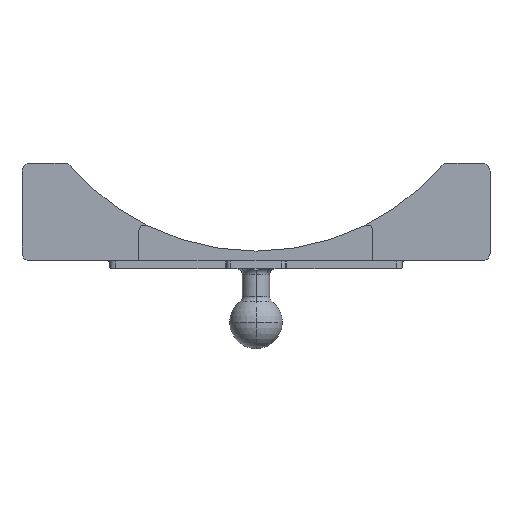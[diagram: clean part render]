
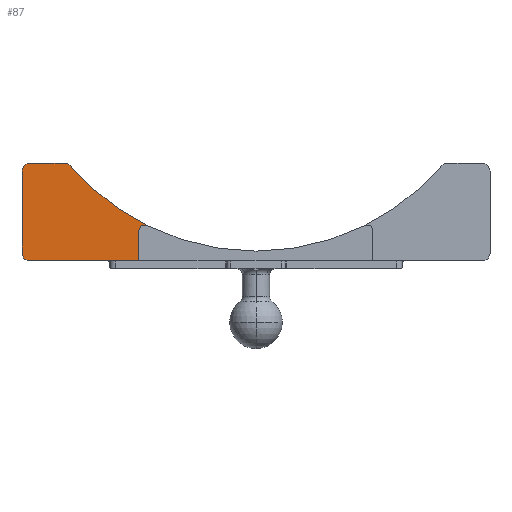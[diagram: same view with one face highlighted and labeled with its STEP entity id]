
A CAD part, top view. The second image highlights one B-rep face of the part: STEP entity #87.
In plain terms, the highlighted planar face has unit normal (0, 0, 1).
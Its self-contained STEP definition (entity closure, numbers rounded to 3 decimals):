
#87=ADVANCED_FACE('',(#167),#761,.T.);
#167=FACE_OUTER_BOUND('',#247,.F.);
#247=EDGE_LOOP('',(#481,#482,#483,#484,#485,#486,#487,#488,#489,#490,#491,
#492));
#481=ORIENTED_EDGE('',*,*,#1269,.T.);
#482=ORIENTED_EDGE('',*,*,#1119,.F.);
#483=ORIENTED_EDGE('',*,*,#1241,.T.);
#484=ORIENTED_EDGE('',*,*,#1211,.T.);
#485=ORIENTED_EDGE('',*,*,#1263,.T.);
#486=ORIENTED_EDGE('',*,*,#1246,.T.);
#487=ORIENTED_EDGE('',*,*,#1137,.F.);
#488=ORIENTED_EDGE('',*,*,#1245,.T.);
#489=ORIENTED_EDGE('',*,*,#1133,.F.);
#490=ORIENTED_EDGE('',*,*,#1248,.T.);
#491=ORIENTED_EDGE('',*,*,#1127,.F.);
#492=ORIENTED_EDGE('',*,*,#1140,.T.);
#761=PLANE('',#1610);
#782=LINE('',#2320,#897);
#839=LINE('',#2452,#954);
#869=LINE('',#2482,#984);
#873=LINE('',#2486,#988);
#874=LINE('',#2487,#989);
#876=LINE('',#2489,#991);
#897=VECTOR('',#1705,7.696);
#954=VECTOR('',#1816,0.5);
#984=VECTOR('',#1846,7.5);
#988=VECTOR('',#1850,21.);
#989=VECTOR('',#1851,20.);
#991=VECTOR('',#1853,9.048);
#1031=CIRCLE('',#1518,2.);
#1037=CIRCLE('',#1524,2.);
#1041=CIRCLE('',#1528,2.);
#1044=CIRCLE('',#1531,62.5);
#1058=CIRCLE('',#1545,0.5);
#1064=CIRCLE('',#1551,1.5);
#1119=EDGE_CURVE('',#1429,#1430,#782,.T.);
#1127=EDGE_CURVE('',#1418,#1417,#1031,.T.);
#1133=EDGE_CURVE('',#1406,#1405,#1037,.T.);
#1137=EDGE_CURVE('',#1398,#1397,#1041,.T.);
#1140=EDGE_CURVE('',#1418,#1393,#1044,.T.);
#1211=EDGE_CURVE('',#1352,#1354,#839,.T.);
#1241=EDGE_CURVE('',#1429,#1352,#869,.T.);
#1245=EDGE_CURVE('',#1398,#1405,#873,.T.);
#1246=EDGE_CURVE('',#1348,#1397,#874,.T.);
#1248=EDGE_CURVE('',#1406,#1417,#876,.T.);
#1263=EDGE_CURVE('',#1354,#1348,#1058,.T.);
#1269=EDGE_CURVE('',#1393,#1430,#1064,.T.);
#1348=VERTEX_POINT('',#2141);
#1352=VERTEX_POINT('',#2145);
#1354=VERTEX_POINT('',#2147);
#1393=VERTEX_POINT('',#2186);
#1397=VERTEX_POINT('',#2190);
#1398=VERTEX_POINT('',#2191);
#1405=VERTEX_POINT('',#2198);
#1406=VERTEX_POINT('',#2199);
#1417=VERTEX_POINT('',#2210);
#1418=VERTEX_POINT('',#2211);
#1429=VERTEX_POINT('',#2222);
#1430=VERTEX_POINT('',#2223);
#1518=AXIS2_PLACEMENT_3D('',#2328,#1716,#1717);
#1524=AXIS2_PLACEMENT_3D('',#2334,#1728,#1729);
#1528=AXIS2_PLACEMENT_3D('',#2338,#1736,#1737);
#1531=AXIS2_PLACEMENT_3D('',#2341,#1742,#1743);
#1545=AXIS2_PLACEMENT_3D('',#2504,#1871,#1872);
#1551=AXIS2_PLACEMENT_3D('',#2510,#1883,#1884);
#1610=AXIS2_PLACEMENT_3D('',#2605,#2009,#2010);
#1705=DIRECTION('',(0.,1.,0.));
#1716=DIRECTION('',(0.,0.,1.));
#1717=DIRECTION('',(0.759,0.651,0.));
#1728=DIRECTION('',(0.,0.,1.));
#1729=DIRECTION('',(0.,1.,0.));
#1736=DIRECTION('',(0.,0.,1.));
#1737=DIRECTION('',(-1.,0.,0.));
#1742=DIRECTION('',(0.,0.,1.));
#1743=DIRECTION('',(-0.759,-0.651,0.));
#1816=DIRECTION('',(0.,-1.,0.));
#1846=DIRECTION('',(-1.,0.,0.));
#1850=DIRECTION('',(0.,1.,0.));
#1851=DIRECTION('',(-1.,0.,0.));
#1853=DIRECTION('',(1.,0.,0.));
#1871=DIRECTION('',(0.,0.,1.));
#1872=DIRECTION('',(1.,0.,0.));
#1883=DIRECTION('',(0.,0.,1.));
#1884=DIRECTION('',(0.445,0.895,0.));
#2009=DIRECTION('',(0.,0.,1.));
#2010=DIRECTION('',(1.,0.,0.));
#2141=CARTESIAN_POINT('',(-38.,-17.5,2.375));
#2145=CARTESIAN_POINT('',(-37.5,-17.5,2.375));
#2147=CARTESIAN_POINT('',(-37.5,-18.,2.375));
#2186=CARTESIAN_POINT('',(-27.832,-8.461,2.375));
#2190=CARTESIAN_POINT('',(-58.,-17.5,2.375));
#2191=CARTESIAN_POINT('',(-60.,-15.5,2.375));
#2198=CARTESIAN_POINT('',(-60.,5.5,2.375));
#2199=CARTESIAN_POINT('',(-58.,7.5,2.375));
#2210=CARTESIAN_POINT('',(-48.952,7.5,2.375));
#2211=CARTESIAN_POINT('',(-47.434,6.802,2.375));
#2222=CARTESIAN_POINT('',(-30.,-17.5,2.375));
#2223=CARTESIAN_POINT('',(-30.,-9.804,2.375));
#2320=CARTESIAN_POINT('',(-30.,-17.5,2.375));
#2328=CARTESIAN_POINT('',(-48.952,5.5,2.375));
#2334=CARTESIAN_POINT('',(-58.,5.5,2.375));
#2338=CARTESIAN_POINT('',(-58.,-15.5,2.375));
#2341=CARTESIAN_POINT('',(0.,47.5,2.375));
#2452=CARTESIAN_POINT('',(-37.5,-17.5,2.375));
#2482=CARTESIAN_POINT('',(-30.,-17.5,2.375));
#2486=CARTESIAN_POINT('',(-60.,-15.5,2.375));
#2487=CARTESIAN_POINT('',(-38.,-17.5,2.375));
#2489=CARTESIAN_POINT('',(-58.,7.5,2.375));
#2504=CARTESIAN_POINT('',(-38.,-18.,2.375));
#2510=CARTESIAN_POINT('',(-28.5,-9.804,2.375));
#2605=CARTESIAN_POINT('',(-62.52,-20.02,2.375));
